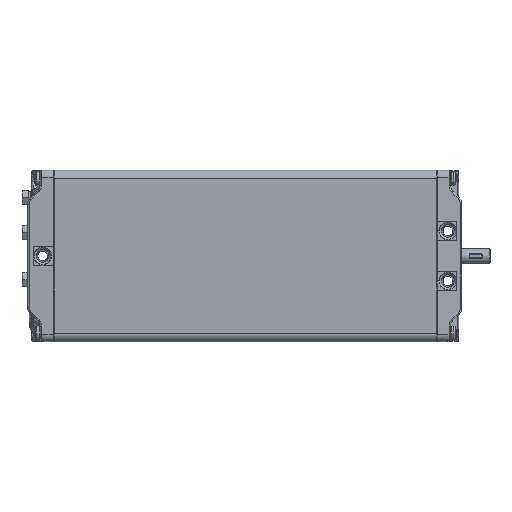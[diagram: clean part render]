
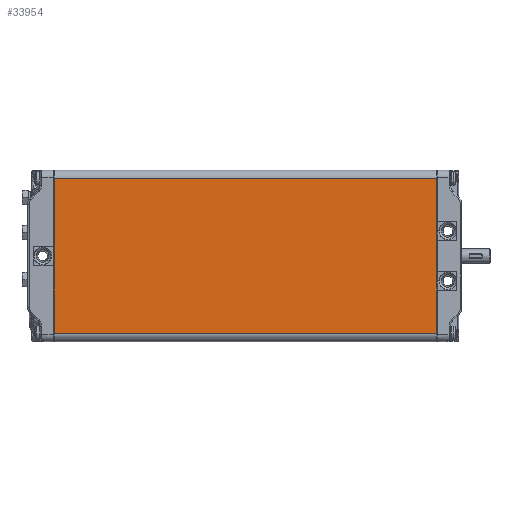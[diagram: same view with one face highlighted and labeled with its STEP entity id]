
A CAD part, top view. The second image highlights one B-rep face of the part: STEP entity #33954.
In plain terms, the highlighted planar face has unit normal (0, 0, 1).
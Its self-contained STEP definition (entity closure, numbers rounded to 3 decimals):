
#3533=LINE('',#72391,#4818);
#3534=LINE('',#72394,#4819);
#3535=LINE('',#72396,#4820);
#3536=LINE('',#72398,#4821);
#4818=VECTOR('',#41225,1000.);
#4819=VECTOR('',#41226,1000.);
#4820=VECTOR('',#41227,1000.);
#4821=VECTOR('',#41228,1000.);
#10134=ORIENTED_EDGE('',*,*,#16207,.T.);
#10135=ORIENTED_EDGE('',*,*,#16208,.T.);
#10136=ORIENTED_EDGE('',*,*,#16209,.T.);
#10137=ORIENTED_EDGE('',*,*,#16210,.T.);
#16207=EDGE_CURVE('',#19473,#19474,#3533,.F.);
#16208=EDGE_CURVE('',#19474,#19475,#3534,.T.);
#16209=EDGE_CURVE('',#19475,#19476,#3535,.T.);
#16210=EDGE_CURVE('',#19476,#19473,#3536,.F.);
#19473=VERTEX_POINT('',#72392);
#19474=VERTEX_POINT('',#72393);
#19475=VERTEX_POINT('',#72395);
#19476=VERTEX_POINT('',#72397);
#22983=EDGE_LOOP('',(#10134,#10135,#10136,#10137));
#24979=FACE_BOUND('',#22983,.T.);
#26116=PLANE('',#36234);
#33954=ADVANCED_FACE('',(#24979),#26116,.T.);
#36234=AXIS2_PLACEMENT_3D('',#72390,#41223,#41224);
#41223=DIRECTION('',(0.,0.,1.));
#41224=DIRECTION('',(1.,0.,0.));
#41225=DIRECTION('',(0.,-1.,0.));
#41226=DIRECTION('',(-1.,0.,0.));
#41227=DIRECTION('',(0.,-1.,0.));
#41228=DIRECTION('',(-1.,0.,0.));
#72390=CARTESIAN_POINT('',(60.,268.5,30.));
#72391=CARTESIAN_POINT('',(54.,268.5,30.));
#72392=CARTESIAN_POINT('',(54.,0.5,30.));
#72393=CARTESIAN_POINT('',(54.,268.,30.));
#72394=CARTESIAN_POINT('',(60.,268.,30.));
#72395=CARTESIAN_POINT('',(-54.,268.,30.));
#72396=CARTESIAN_POINT('',(-54.,268.5,30.));
#72397=CARTESIAN_POINT('',(-54.,0.5,30.));
#72398=CARTESIAN_POINT('',(54.,0.5,30.));
